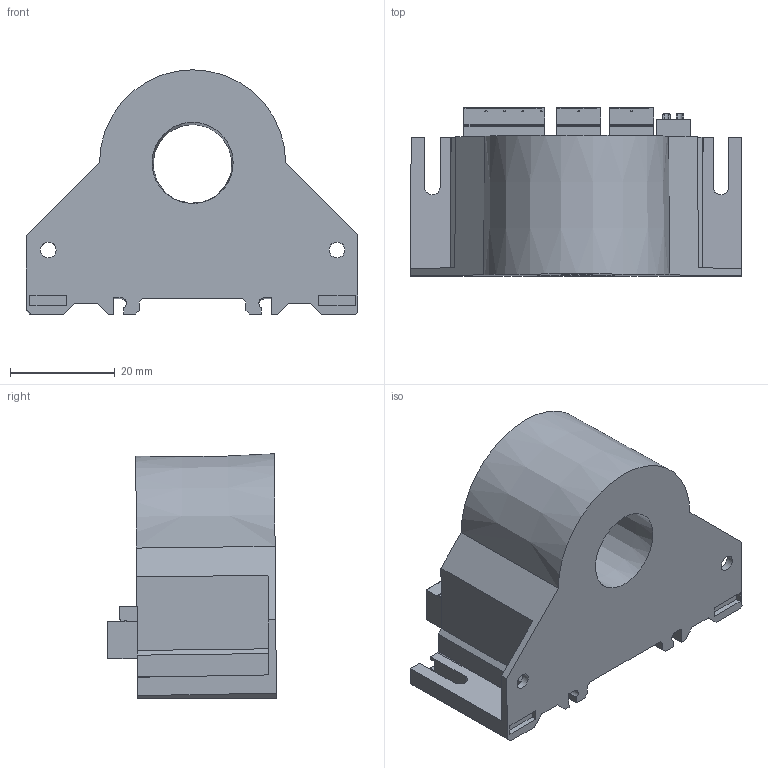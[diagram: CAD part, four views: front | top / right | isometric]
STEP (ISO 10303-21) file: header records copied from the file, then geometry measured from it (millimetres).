
FILE_DESCRIPTION(/* description */ ('Unknown'),/* implementation_level */ '2;1');
FILE_NAME(/* name */ '6MTA e 6MTB',/* time_stamp */ '2024-01-19T10:59:14+01:00',/* author */ ('Unknown'),/* organization */ ('Unknown'),/* preprocessor_version */ 'ST-DEVELOPER v18.102',/* originating_system */ 'Solid Edge',/* authorisation */ 'Unknown');
FILE_SCHEMA (('AUTOMOTIVE_DESIGN { 1 0 10303 214 3 1 1 }','PROCESS_PLANNING_SCHEMA','AUTOMOTIVE_DESIGN {1 0 10303 214 3 1 1}'));
Length unit declared in the file: millimetre
Products named in the file (1): 6MTA e 6MTB
Bounding box: 63.23 x 32.16 x 46.56 mm (x, y, z)
Surface area: 22656.2 mm2 (no closed solid volume)
Topology: 0 solids, 16 shells, 697 faces, 2060 edges, 1395 vertices
Faces by surface type: plane 563, cylinder 109, cone 16, bspline 5, torus 4
Full cylindrical faces by diameter (mm): 1.6 x8, 3 x2
Entity records: 24505 total; most frequent: CARTESIAN_POINT 4824, ORIENTED_EDGE 3636, DIRECTION 3534, EDGE_CURVE 2023, LINE 1642, VECTOR 1642, VERTEX_POINT 1382, AXIS2_PLACEMENT_3D 946
